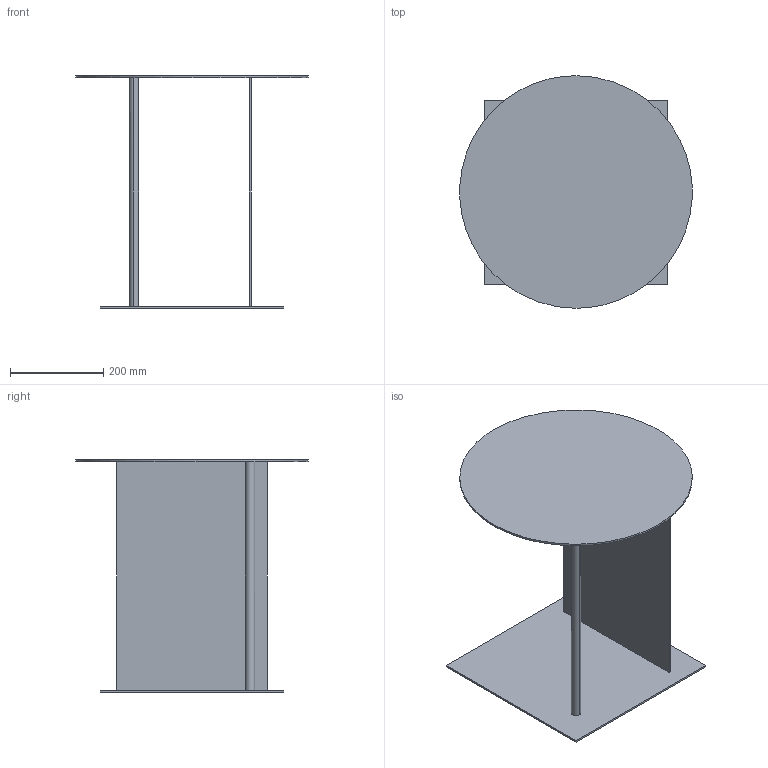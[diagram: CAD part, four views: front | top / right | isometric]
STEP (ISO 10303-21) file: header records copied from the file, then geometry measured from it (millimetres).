
FILE_DESCRIPTION(/* description */ (''),/* implementation_level */ '2;1');
FILE_NAME(/* name */ 'P06SBO~R',/* time_stamp */ '2019-09-06T11:02:24+02:00',/* author */ (''),/* organization */ (''),/* preprocessor_version */ 'ST-DEVELOPER v16.5',/* originating_system */ '',/* authorisation */ '');
FILE_SCHEMA (('AUTOMOTIVE_DESIGN'));
Length unit declared in the file: millimetre
Products named in the file (1): Document
Bounding box: 499.04 x 500 x 500 mm (x, y, z)
Volume: 2202284.6 mm3; surface area: 1067880 mm2
Topology: 1 solids, 1 shells, 16 faces, 36 edges, 24 vertices
Faces by surface type: plane 12, bspline 4
Entity records: 447 total; most frequent: CARTESIAN_POINT 174, ORIENTED_EDGE 72, EDGE_CURVE 36, B_SPLINE_CURVE_WITH_KNOTS 24, VERTEX_POINT 24, EDGE_LOOP 20, ADVANCED_FACE 16, FACE_OUTER_BOUND 16
